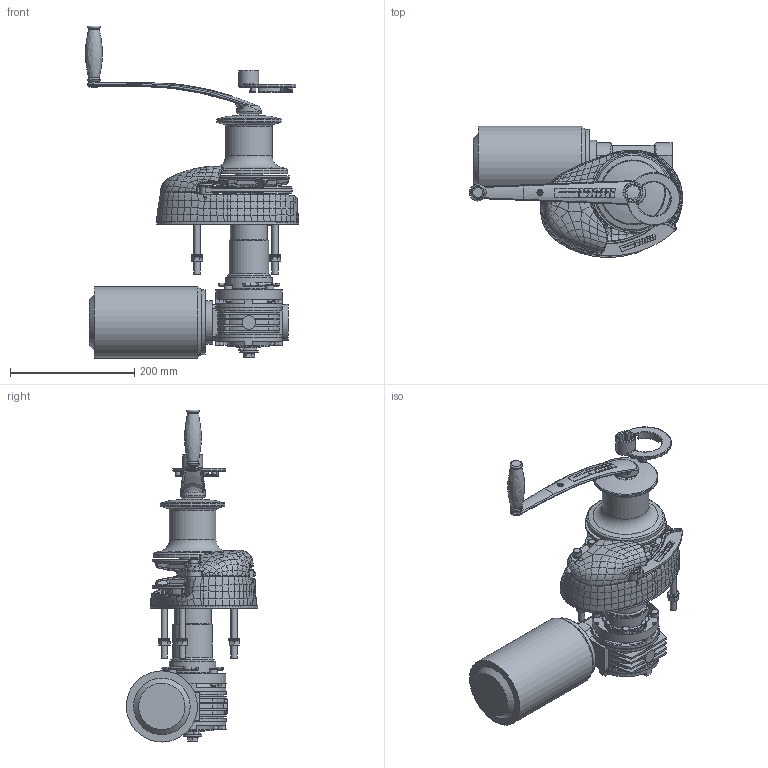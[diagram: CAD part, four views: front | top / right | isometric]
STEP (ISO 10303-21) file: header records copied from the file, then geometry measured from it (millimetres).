
FILE_DESCRIPTION(/* description */ (''),/* implementation_level */ '2;1');
FILE_NAME(/* name */ 'VRC1250 - 6-8-10mm.stp',/* time_stamp */ '2025-11-28T08:38:00+11:00',/* author */ ('markus.mendgen'),/* organization */ (''),/* preprocessor_version */ 'ST-DEVELOPER v20',/* originating_system */ 'Autodesk Inventor 2025',/* authorisation */ '');
FILE_SCHEMA (('AUTOMOTIVE_DESIGN { 1 0 10303 214 3 1 1 }'));
Length unit declared in the file: millimetre
Products named in the file (1): U001005_Simplify
Bounding box: 343.14 x 211.47 x 534.3 mm (x, y, z)
Volume: 5013992.5 mm3; surface area: 613004.9 mm2
Topology: 5 solids, 6 shells, 4822 faces, 12462 edges, 7572 vertices
Faces by surface type: bspline 2021, cylinder 1112, plane 1055, torus 335, sphere 154, cone 145
Full cylindrical faces by diameter (mm): 2 x4, 5 x1, 7.875 x1, 8 x10, 9 x2, 10 x10, 12.2 x1, 13 x7, 15.75 x1, 17 x1, 18 x3, 19 x1, 20.158 x1, 22 x1, 24.95 x2, 25.06 x1, 25.1 x1, 26.5 x1, 28 x1, 30 x1, 32 x1, 35.05 x1, 36.05 x1, 36.2 x1, 36.5 x1, 37 x1, 40 x2, 43.57 x1, 48.05 x1, 48.4 x1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
Entity records: 397577 total; most frequent: CARTESIAN_POINT 296462, ORIENTED_EDGE 24614, DIRECTION 15461, EDGE_CURVE 12309, VERTEX_POINT 7567, AXIS2_PLACEMENT_3D 6074, B_SPLINE_CURVE_WITH_KNOTS 5603, EDGE_LOOP 4958
